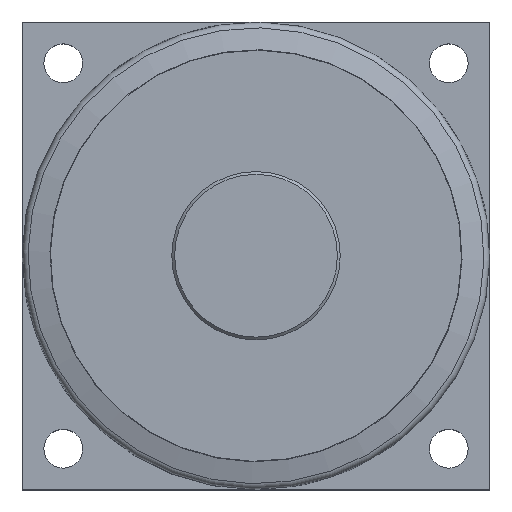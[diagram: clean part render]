
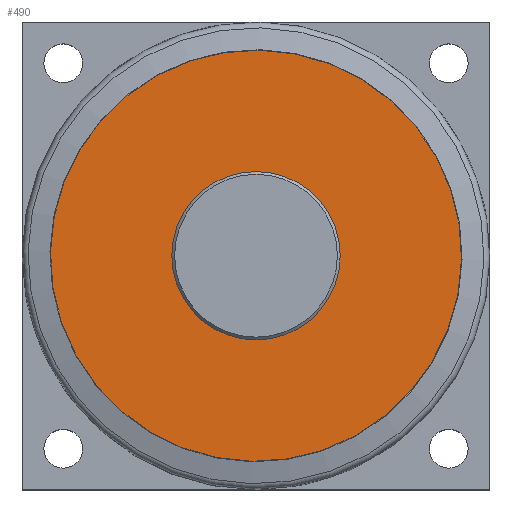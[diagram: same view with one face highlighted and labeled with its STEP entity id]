
A CAD part, top view. The second image highlights one B-rep face of the part: STEP entity #490.
In plain terms, the highlighted planar face has unit normal (0, 0, 1).
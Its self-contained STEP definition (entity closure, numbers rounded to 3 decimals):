
#410=CARTESIAN_POINT('',(-110.712,-136.512,174.183));
#411=VERTEX_POINT('',#410);
#412=CARTESIAN_POINT('',(-149.683,-114.012,174.183));
#413=DIRECTION('',(0.,0.,-1.0));
#414=DIRECTION('',(-0.866,0.5,0.));
#415=AXIS2_PLACEMENT_3D('',#412,#413,#414);
#416=CIRCLE('',#415,45.0);
#417=EDGE_CURVE('',#411,#411,#416,.T.);
#467=CARTESIAN_POINT('',(-47.2,-153.613,174.183));
#468=VERTEX_POINT('',#467);
#469=CARTESIAN_POINT('',(-149.683,-114.012,174.183));
#470=DIRECTION('',(0.,0.,-1.0));
#471=DIRECTION('',(-0.933,0.36,0.));
#472=AXIS2_PLACEMENT_3D('',#469,#470,#471);
#473=CIRCLE('',#472,109.868);
#474=EDGE_CURVE('',#468,#468,#473,.T.);
#479=CARTESIAN_POINT('',(-55.938,-150.236,174.183));
#480=DIRECTION('',(0.,0.,1.0));
#481=DIRECTION('',(-0.36,-0.933,0.));
#482=AXIS2_PLACEMENT_3D('',#479,#480,#481);
#483=PLANE('',#482);
#484=ORIENTED_EDGE('',*,*,#474,.F.);
#485=EDGE_LOOP('',(#484));
#486=FACE_OUTER_BOUND('',#485,.T.);
#487=ORIENTED_EDGE('',*,*,#417,.T.);
#488=EDGE_LOOP('',(#487));
#489=FACE_BOUND('',#488,.T.);
#490=ADVANCED_FACE('',(#486,#489),#483,.T.);
